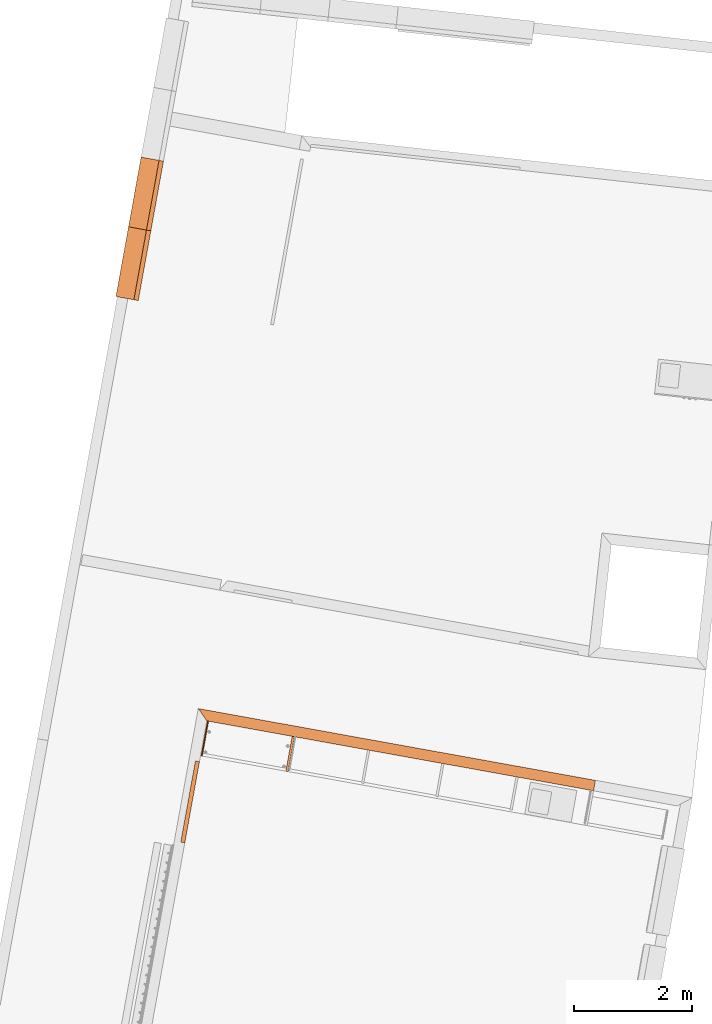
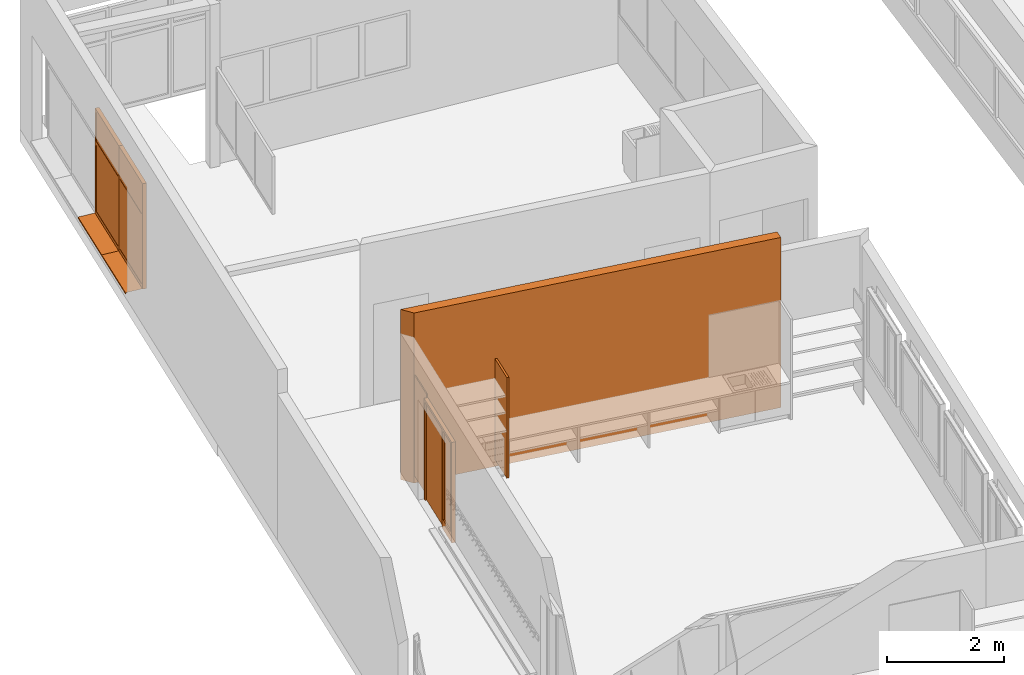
# One storey, part 24 of 52: 6 proxies.
"""IFC2X3 building model written with IfcOpenShell, lengths in metres."""

from ifc_helpers import new_model, entity, si_unit, converted_unit, derived_unit, money_unit, direction, frame, origin_with_axes, place, context, subcontext, project, spatial, polyline, outline, extrude, open_shell, faceted_brep, surface_model, source, transform, mapped, material, type_object, element, save


model = new_model("IFC2X3")

# Units and contexts
model_context = context("Model", 3, precision=1e-05, world=origin_with_axes(), true_north=direction((0.0, 1.0)))
body_context = subcontext(model_context, "Body", "Model", "MODEL_VIEW")
ifc_project = project(units=[si_unit("LENGTHUNIT", "METRE"), si_unit("AREAUNIT", "SQUARE_METRE"), si_unit("VOLUMEUNIT", "CUBIC_METRE"), converted_unit("PLANEANGLEUNIT", "DEGREE", entity("IfcPlaneAngleMeasure", 0.0174532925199), si_unit("PLANEANGLEUNIT", "RADIAN"), dimensions=[0, 0, 0, 0, 0, 0, 0]), money_unit("CHF"), converted_unit("TIMEUNIT", "Year", entity("IfcTimeMeasure", 31556926.0), si_unit("TIMEUNIT", "SECOND"), dimensions=[0, 0, 1, 0, 0, 0, 0]), si_unit("MASSUNIT", "GRAM", prefix="KILO"), si_unit("THERMODYNAMICTEMPERATUREUNIT", "DEGREE_CELSIUS"), si_unit("LUMINOUSINTENSITYUNIT", "LUMEN"), si_unit("ENERGYUNIT", "JOULE", prefix="MEGA"), derived_unit("THERMALCONDUCTANCEUNIT", [(si_unit("POWERUNIT", "WATT"), 1), (si_unit("LENGTHUNIT", "METRE"), -1), (si_unit("THERMODYNAMICTEMPERATUREUNIT", "KELVIN"), -1)]), derived_unit("SPECIFICHEATCAPACITYUNIT", [(si_unit("ENERGYUNIT", "JOULE"), 1), (si_unit("MASSUNIT", "GRAM", prefix="KILO"), -1), (si_unit("THERMODYNAMICTEMPERATUREUNIT", "KELVIN"), -1)]), derived_unit("MASSDENSITYUNIT", [(si_unit("MASSUNIT", "GRAM", prefix="KILO"), 1), (si_unit("VOLUMEUNIT", "CUBIC_METRE"), -1)])], contexts=[model_context])

# Site, building, storey
site_placement = place(None, frame((0.0, 0.0, 0.0), z_axis=(0.0, 0.0, 1.0), x_axis=(-0.177771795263, -0.984071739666, 0.0)))
site = spatial("IfcSite", under=ifc_project, at=site_placement, Name="Site", CompositionType="ELEMENT")
building_placement = place(site_placement, origin_with_axes())
building = spatial("IfcBuilding", under=site, at=building_placement, Name="Bâtiment", CompositionType="ELEMENT")
storey_placement = place(building_placement, frame((0.0, 0.0, 3.2), z_axis=(0.0, 0.0, 1.0), x_axis=(1.0, 0.0, 0.0)))
storey = spatial("IfcBuildingStorey", under=building, at=storey_placement, Name="R+1", CompositionType="ELEMENT", Elevation=3.2)

# Proxies
ifc_material_1 = material(Name="_BA banché RAL9007")
building_element_proxy_type_1 = type_object("IfcBuildingElementProxyType", Name="_BA banché RAL9007 180", PredefinedType="NOTDEFINED")
proxy_1_placement = place(storey_placement, frame((109.924841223, -156.627151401, -0.15), z_axis=(0.0, 0.0, 1.0), x_axis=(0.0, 1.0, 0.0)))
element("IfcBuildingElementProxy", 1, at=proxy_1_placement, inside=storey, type_object=building_element_proxy_type_1, material=ifc_material_1, Name="M refend", context=body_context, shape_type="SweptSolid", body=[
    extrude(outline(polyline([(0.180000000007, -0.18), (6.84100000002, -0.18), (6.84100000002, 0.0), (0.0, 0.0), (0.180000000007, -0.18)])), origin_with_axes(), (0.0, 0.0, 1.0), 3.55),
])
ifc_material_2 = material(Name="_panneau mélaminé")
building_element_proxy_type_2 = type_object("IfcBuildingElementProxyType", Name="_panneau mélaminé 40", PredefinedType="NOTDEFINED")
proxy_2_placement = place(storey_placement, frame((110.704841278, -154.978236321, 0.0), z_axis=(0.0, 0.0, 1.0), x_axis=(-1.0, 0.0, 0.0)))
element("IfcBuildingElementProxy", 2, at=proxy_2_placement, inside=storey, type_object=building_element_proxy_type_2, material=ifc_material_2, Name="cloison-fd-classe G", context=body_context, shape_type="SweptSolid", body=[
    extrude(outline(polyline([(0.0, -0.04), (0.600000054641, -0.04), (0.600000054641, 0.0), (0.0, 0.0), (0.0, -0.04)])), origin_with_axes(), (0.0, 0.0, 1.0), 2.1),
])
building_element_proxy_type_3 = type_object("IfcBuildingElementProxyType", Name="_panneau mélaminé 19", PredefinedType="NOTDEFINED")
proxy_3_placement = place(storey_placement, frame((110.704841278, -156.418151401, 0.0), z_axis=(0.0, 0.0, 1.0), x_axis=(-1.0, 0.0, 0.0)))
element("IfcBuildingElementProxy", 3, at=proxy_3_placement, inside=storey, type_object=building_element_proxy_type_3, material=ifc_material_2, Name="cloison-fd-classe G", context=body_context, shape_type="SweptSolid", body=[
    extrude(outline(polyline([(0.0, 0.0), (0.600000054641, 0.0), (0.600000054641, 0.019), (0.0, 0.019), (0.0, 0.0)])), origin_with_axes(), (0.0, 0.0, 1.0), 2.1),
])
ifc_material_3 = material(Name="Matériau de construction IFC")
building_element_proxy_type_4 = type_object("IfcBuildingElementProxyType", Name="Porte avec tierce vitrée côté 2 21", PredefinedType="NOTDEFINED")
shared_shape_1 = source(origin_with_axes(), body_context, "Body", "SurfaceModel", [
    faceted_brep([(1.4, 0.180000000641, 0.0), (1.4, 0.110000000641, 0.0), (1.35, 0.110000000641, 0.0), (1.35, 0.180000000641, 0.0), (1.4, 0.180000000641, 2.05), (1.4, 0.110000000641, 2.05), (1.35, 0.110000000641, 2.05), (1.35, 0.110000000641, 0.2), (1.35, 0.180000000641, 0.2), (1.35, 0.180000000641, 2.05)], [[[0, 1, 2, 3]], [[4, 5, 1, 0]], [[1, 5, 6, 7, 2]], [[3, 2, 7, 8]], [[0, 3, 8, 9, 4]], [[9, 6, 5, 4]], [[8, 7, 6, 9]]]),
    faceted_brep([(0.91, 0.140000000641, 0.0), (0.91, 0.110000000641, 0.0), (0.91, 0.110000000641, 2.05), (0.91, 0.140000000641, 2.05), (0.93, 0.140000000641, 0.0), (0.93, 0.180000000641, 0.0), (0.96, 0.180000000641, 0.0), (0.96, 0.110000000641, 0.0), (0.96, 0.110000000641, 0.2), (0.96, 0.110000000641, 2.05), (0.93, 0.140000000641, 2.05), (0.96, 0.180000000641, 2.05), (0.93, 0.180000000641, 2.05), (0.96, 0.180000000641, 0.2)], [[[0, 1, 2, 3]], [[4, 5, 6, 7, 1, 0]], [[7, 8, 9, 2, 1]], [[10, 3, 2, 9, 11, 12]], [[10, 4, 0, 3]], [[12, 5, 4, 10]], [[12, 11, 13, 6, 5]], [[6, 13, 8, 7]], [[13, 11, 9, 8]]]),
    faceted_brep([(1.35, 0.180000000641, 0.2), (1.35, 0.110000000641, 0.2), (1.35, 0.110000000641, 0.0), (1.35, 0.180000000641, 0.0), (0.96, 0.180000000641, 0.2), (0.96, 0.110000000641, 0.2), (0.96, 0.110000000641, 0.0), (0.96, 0.180000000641, 0.0)], [[[0, 1, 2, 3]], [[4, 5, 1, 0]], [[1, 5, 6, 2]], [[3, 2, 6, 7]], [[0, 3, 7, 4]], [[7, 6, 5, 4]]]),
    faceted_brep([(0.03, 0.140000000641, 2.05), (0.03, 0.180000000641, 2.05), (0.0, 0.180000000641, 2.05), (0.0, 0.110000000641, 2.05), (0.05, 0.110000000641, 2.05), (0.05, 0.140000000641, 2.05), (0.03, 0.140000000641, 0.0), (0.03, 0.180000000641, 0.0), (0.0, 0.180000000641, 0.0), (0.0, 0.110000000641, 0.0), (0.05, 0.110000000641, 0.0), (0.05, 0.140000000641, 0.0)], [[[0, 1, 2, 3, 4, 5]], [[0, 6, 7, 1]], [[7, 8, 2, 1]], [[2, 8, 9, 3]], [[3, 9, 10, 4]], [[5, 4, 10, 11]], [[5, 11, 6, 0]], [[6, 11, 10, 9, 8, 7]]]),
    faceted_brep([(0.93, 0.180000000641, 2.07), (0.03, 0.180000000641, 2.07), (0.03, 0.180000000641, 2.05), (0.0, 0.180000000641, 2.05), (0.0, 0.180000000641, 2.1), (1.4, 0.180000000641, 2.1), (1.4, 0.180000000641, 2.05), (1.35, 0.180000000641, 2.05), (0.96, 0.180000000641, 2.05), (0.93, 0.180000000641, 2.05), (0.93, 0.140000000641, 2.07), (0.03, 0.140000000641, 2.07), (0.03, 0.140000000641, 2.05), (0.05, 0.140000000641, 2.05), (0.05, 0.110000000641, 2.05), (0.0, 0.110000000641, 2.05), (0.0, 0.110000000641, 2.1), (1.4, 0.110000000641, 2.1), (1.4, 0.110000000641, 2.05), (1.35, 0.110000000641, 2.05), (0.96, 0.110000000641, 2.05), (0.93, 0.140000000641, 2.05), (0.91, 0.110000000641, 2.05)], [[[0, 1, 2, 3, 4, 5, 6, 7, 8, 9]], [[0, 10, 11, 1]], [[1, 11, 12, 2]], [[12, 13, 14, 15, 3, 2]], [[4, 3, 15, 16]], [[5, 4, 16, 17]], [[6, 5, 17, 18]], [[7, 6, 18, 19]], [[8, 7, 19, 20]], [[21, 9, 8, 20, 22, 14, 13]], [[9, 21, 10, 0]], [[12, 11, 10, 21, 13]], [[14, 22, 20, 19, 18, 17, 16, 15]]]),
    faceted_brep([(0.03, 0.180000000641, 0.0), (0.93, 0.180000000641, 0.0), (0.93, 0.140000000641, 0.0), (0.03, 0.140000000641, 0.0), (0.03, 0.180000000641, 2.07), (0.93, 0.180000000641, 2.07), (0.93, 0.140000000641, 2.07), (0.03, 0.140000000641, 2.07)], [[[0, 1, 2, 3]], [[0, 4, 5, 1]], [[1, 5, 6, 2]], [[3, 2, 6, 7]], [[4, 0, 3, 7]], [[5, 4, 7, 6]]]),
    surface_model("IfcShellBasedSurfaceModel", [(1.35, 0.145000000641, 0.2), (0.96, 0.145000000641, 0.2), (0.96, 0.145000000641, 2.05), (1.35, 0.145000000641, 2.05)], [open_shell([[[0, 1, 2, 3]]])]),
    surface_model("IfcShellBasedSurfaceModel", [(1.35, 0.135000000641, 0.2), (1.35, 0.135000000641, 2.05), (0.96, 0.135000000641, 2.05), (0.96, 0.135000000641, 0.2)], [open_shell([[[0, 1, 2, 3]]])]),
])
proxy_4_placement = place(storey_placement, frame((110.804841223, -156.627151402, 0.0), z_axis=(0.0, 0.0, 1.0), x_axis=(1.0, 0.0, 0.0)))
element("IfcBuildingElementProxy", 4, at=proxy_4_placement, inside=storey, type_object=building_element_proxy_type_4, material=ifc_material_3, Name="11", context=body_context, shape_type="MappedRepresentation", body=[
    mapped(shared_shape_1, transform((0.0, 0.0, 0.0))),
])
building_element_proxy_type_5 = type_object("IfcBuildingElementProxyType", Name="Fenêtre variable 21", PredefinedType="NOTDEFINED")
shared_shape_2 = source(origin_with_axes(), body_context, "Body", "SurfaceModel", [
    surface_model("IfcShellBasedSurfaceModel", [(0.0, 0.284, 0.02), (0.0, 0.284, 0.01), (1.2, 0.284, 0.01), (1.2, 0.284, 0.02), (0.0, -0.025, -0.00087719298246), (1.2, -0.025, -0.00087719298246), (0.0, -0.025, -0.0308771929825), (1.2, -0.025, -0.0308771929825), (0.0, -0.0125, -0.0183771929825), (1.2, -0.0125, -0.0183771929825)], [open_shell([[[0, 1, 2, 3]], [[1, 4, 5, 2]], [[4, 6, 7, 5]], [[6, 8, 9, 7]]])]),
    faceted_brep([(0.05, 0.285, 1.46), (0.05, 0.36, 1.46), (0.05, 0.36, 1.54), (0.05, 0.285, 1.54), (0.05, 0.285, 0.08), (0.05, 0.36, 0.08), (0.0, 0.36, 0.08), (0.0, 0.36, 2.149), (0.05, 0.36, 2.149), (0.05, 0.285, 2.149), (0.0, 0.285, 2.149), (0.0, 0.285, 0.08)], [[[0, 1, 2, 3]], [[4, 5, 1, 0]], [[1, 5, 6, 7, 8, 2]], [[3, 2, 8, 9]], [[0, 3, 9, 10, 11, 4]], [[11, 6, 5, 4]], [[10, 7, 6, 11]], [[9, 8, 7, 10]]]),
    faceted_brep([(1.15, 0.285, 0.08), (1.15, 0.36, 0.08), (1.2, 0.36, 0.08), (1.2, 0.285, 0.08), (1.15, 0.285, 1.46), (1.15, 0.36, 1.46), (1.15, 0.36, 1.54), (1.15, 0.36, 2.149), (1.2, 0.36, 2.149), (1.2, 0.285, 2.149), (1.15, 0.285, 2.149), (1.15, 0.285, 1.54)], [[[0, 1, 2, 3]], [[4, 5, 1, 0]], [[1, 5, 6, 7, 8, 2]], [[3, 2, 8, 9]], [[0, 3, 9, 10, 11, 4]], [[11, 6, 5, 4]], [[10, 7, 6, 11]], [[9, 8, 7, 10]]]),
    faceted_brep([(0.05, 0.285, 1.46), (0.05, 0.36, 1.46), (1.15, 0.36, 1.46), (1.15, 0.285, 1.46), (0.05, 0.285, 1.54), (0.05, 0.36, 1.54), (1.15, 0.36, 1.54), (1.15, 0.285, 1.54)], [[[0, 1, 2, 3]], [[4, 5, 1, 0]], [[1, 5, 6, 2]], [[3, 2, 6, 7]], [[0, 3, 7, 4]], [[7, 6, 5, 4]]]),
    faceted_brep([(0.05, 0.285, 0.08), (0.05, 0.36, 0.08), (0.0, 0.36, 0.08), (0.0, 0.285, 0.08), (1.15, 0.285, 0.08), (1.15, 0.36, 0.08), (1.2, 0.36, 0.08), (1.2, 0.36, 0.0), (0.0, 0.36, 0.0), (0.0, 0.285, 0.0), (1.2, 0.285, 0.0), (1.2, 0.285, 0.08)], [[[0, 1, 2, 3]], [[4, 5, 1, 0]], [[1, 5, 6, 7, 8, 2]], [[3, 2, 8, 9]], [[0, 3, 9, 10, 11, 4]], [[11, 6, 5, 4]], [[10, 7, 6, 11]], [[9, 8, 7, 10]]]),
    faceted_brep([(1.15, 0.285, 2.149), (1.15, 0.36, 2.149), (1.2, 0.36, 2.149), (1.2, 0.285, 2.149), (0.05, 0.285, 2.149), (0.05, 0.36, 2.149), (0.0, 0.36, 2.149), (0.0, 0.36, 2.199), (1.2, 0.36, 2.199), (1.2, 0.285, 2.199), (0.0, 0.285, 2.199), (0.0, 0.285, 2.149)], [[[0, 1, 2, 3]], [[4, 5, 1, 0]], [[1, 5, 6, 7, 8, 2]], [[3, 2, 8, 9]], [[0, 3, 9, 10, 11, 4]], [[11, 6, 5, 4]], [[10, 7, 6, 11]], [[9, 8, 7, 10]]]),
    surface_model("IfcShellBasedSurfaceModel", [(0.05, 0.29, 1.54), (1.15, 0.29, 1.54), (1.15, 0.29, 2.149), (0.05, 0.29, 2.149)], [open_shell([[[0, 1, 2, 3]]])]),
    surface_model("IfcShellBasedSurfaceModel", [(0.05, 0.3, 1.54), (0.05, 0.3, 2.149), (1.15, 0.3, 2.149), (1.15, 0.3, 1.54)], [open_shell([[[0, 1, 2, 3]]])]),
    surface_model("IfcShellBasedSurfaceModel", [(0.05, 0.29, 0.08), (1.15, 0.29, 0.08), (1.15, 0.29, 1.46), (0.05, 0.29, 1.46)], [open_shell([[[0, 1, 2, 3]]])]),
    surface_model("IfcShellBasedSurfaceModel", [(0.05, 0.3, 0.08), (0.05, 0.3, 1.46), (1.15, 0.3, 1.46), (1.15, 0.3, 0.08)], [open_shell([[[0, 1, 2, 3]]])]),
])
proxy_5_placement = place(storey_placement, frame((102.100356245, -159.217107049, 9.99999999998e-05), z_axis=(0.0, 0.0, 1.0), x_axis=(1.0, 0.0, 0.0)))
element("IfcBuildingElementProxy", 5, at=proxy_5_placement, inside=storey, type_object=building_element_proxy_type_5, material=ifc_material_3, Name="Baie angle-Ouest", context=body_context, shape_type="MappedRepresentation", body=[
    mapped(shared_shape_2, transform((0.0, 0.0, 0.0))),
])
shared_shape_3 = source(origin_with_axes(), body_context, "Body", "SurfaceModel", [
    surface_model("IfcShellBasedSurfaceModel", [(0.0, 0.284, 0.02), (0.0, 0.284, 0.01), (1.2, 0.284, 0.01), (1.2, 0.284, 0.02), (0.0, -0.025, -0.00087719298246), (1.2, -0.025, -0.00087719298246), (0.0, -0.025, -0.0308771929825), (1.2, -0.025, -0.0308771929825), (0.0, -0.0125, -0.0183771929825), (1.2, -0.0125, -0.0183771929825)], [open_shell([[[0, 1, 2, 3]], [[1, 4, 5, 2]], [[4, 6, 7, 5]], [[6, 8, 9, 7]]])]),
    faceted_brep([(0.05, 0.285, 1.46), (0.05, 0.36, 1.46), (0.05, 0.36, 1.54), (0.05, 0.285, 1.54), (0.05, 0.285, 0.08), (0.05, 0.36, 0.08), (0.0, 0.36, 0.08), (0.0, 0.36, 2.149), (0.05, 0.36, 2.149), (0.05, 0.285, 2.149), (0.0, 0.285, 2.149), (0.0, 0.285, 0.08)], [[[0, 1, 2, 3]], [[4, 5, 1, 0]], [[1, 5, 6, 7, 8, 2]], [[3, 2, 8, 9]], [[0, 3, 9, 10, 11, 4]], [[11, 6, 5, 4]], [[10, 7, 6, 11]], [[9, 8, 7, 10]]]),
    faceted_brep([(1.15, 0.285, 0.08), (1.15, 0.36, 0.08), (1.2, 0.36, 0.08), (1.2, 0.285, 0.08), (1.15, 0.285, 1.46), (1.15, 0.36, 1.46), (1.15, 0.36, 1.54), (1.15, 0.36, 2.149), (1.2, 0.36, 2.149), (1.2, 0.285, 2.149), (1.15, 0.285, 2.149), (1.15, 0.285, 1.54)], [[[0, 1, 2, 3]], [[4, 5, 1, 0]], [[1, 5, 6, 7, 8, 2]], [[3, 2, 8, 9]], [[0, 3, 9, 10, 11, 4]], [[11, 6, 5, 4]], [[10, 7, 6, 11]], [[9, 8, 7, 10]]]),
    faceted_brep([(0.05, 0.285, 1.46), (0.05, 0.36, 1.46), (1.15, 0.36, 1.46), (1.15, 0.285, 1.46), (0.05, 0.285, 1.54), (0.05, 0.36, 1.54), (1.15, 0.36, 1.54), (1.15, 0.285, 1.54)], [[[0, 1, 2, 3]], [[4, 5, 1, 0]], [[1, 5, 6, 2]], [[3, 2, 6, 7]], [[0, 3, 7, 4]], [[7, 6, 5, 4]]]),
    faceted_brep([(0.05, 0.285, 0.08), (0.05, 0.36, 0.08), (0.0, 0.36, 0.08), (0.0, 0.285, 0.08), (1.15, 0.285, 0.08), (1.15, 0.36, 0.08), (1.2, 0.36, 0.08), (1.2, 0.36, 0.0), (0.0, 0.36, 0.0), (0.0, 0.285, 0.0), (1.2, 0.285, 0.0), (1.2, 0.285, 0.08)], [[[0, 1, 2, 3]], [[4, 5, 1, 0]], [[1, 5, 6, 7, 8, 2]], [[3, 2, 8, 9]], [[0, 3, 9, 10, 11, 4]], [[11, 6, 5, 4]], [[10, 7, 6, 11]], [[9, 8, 7, 10]]]),
    faceted_brep([(1.15, 0.285, 2.149), (1.15, 0.36, 2.149), (1.2, 0.36, 2.149), (1.2, 0.285, 2.149), (0.05, 0.285, 2.149), (0.05, 0.36, 2.149), (0.0, 0.36, 2.149), (0.0, 0.36, 2.199), (1.2, 0.36, 2.199), (1.2, 0.285, 2.199), (0.0, 0.285, 2.199), (0.0, 0.285, 2.149)], [[[0, 1, 2, 3]], [[4, 5, 1, 0]], [[1, 5, 6, 7, 8, 2]], [[3, 2, 8, 9]], [[0, 3, 9, 10, 11, 4]], [[11, 6, 5, 4]], [[10, 7, 6, 11]], [[9, 8, 7, 10]]]),
    surface_model("IfcShellBasedSurfaceModel", [(0.05, 0.29, 1.54), (1.15, 0.29, 1.54), (1.15, 0.29, 2.149), (0.05, 0.29, 2.149)], [open_shell([[[0, 1, 2, 3]]])]),
    surface_model("IfcShellBasedSurfaceModel", [(0.05, 0.3, 1.54), (0.05, 0.3, 2.149), (1.15, 0.3, 2.149), (1.15, 0.3, 1.54)], [open_shell([[[0, 1, 2, 3]]])]),
    surface_model("IfcShellBasedSurfaceModel", [(0.05, 0.29, 0.08), (1.15, 0.29, 0.08), (1.15, 0.29, 1.46), (0.05, 0.29, 1.46)], [open_shell([[[0, 1, 2, 3]]])]),
    surface_model("IfcShellBasedSurfaceModel", [(0.05, 0.3, 0.08), (0.05, 0.3, 1.46), (1.15, 0.3, 1.46), (1.15, 0.3, 0.08)], [open_shell([[[0, 1, 2, 3]]])]),
])
proxy_6_placement = place(storey_placement, frame((100.900356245, -159.217107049, 9.99999999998e-05), z_axis=(0.0, 0.0, 1.0), x_axis=(1.0, 0.0, 0.0)))
element("IfcBuildingElementProxy", 6, at=proxy_6_placement, inside=storey, type_object=building_element_proxy_type_5, material=ifc_material_3, Name="Baie angle-Ouest", context=body_context, shape_type="MappedRepresentation", body=[
    mapped(shared_shape_3, transform((0.0, 0.0, 0.0))),
])

save(model, "model.ifc")
